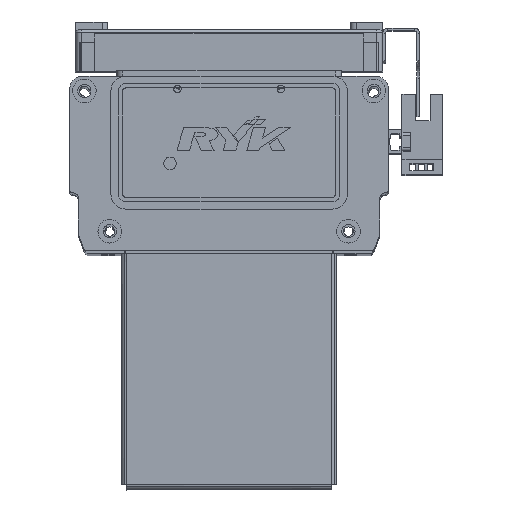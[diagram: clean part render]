
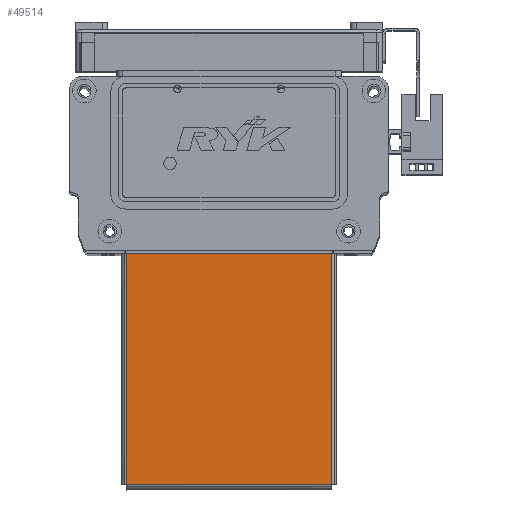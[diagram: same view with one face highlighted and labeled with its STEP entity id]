
A CAD part, top view. The second image highlights one B-rep face of the part: STEP entity #49514.
In plain terms, the highlighted planar face has unit normal (0, 0, 1) as drawn and (0, 1, 0) by its records, which use the part's own axes.
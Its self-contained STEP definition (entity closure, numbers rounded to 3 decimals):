
#2511 = EDGE_CURVE ( 'NONE', #35193, #35216, #31528, .T. ) ;
#2513 = EDGE_CURVE ( 'NONE', #35216, #35158, #31552, .T. ) ;
#2515 = EDGE_CURVE ( 'NONE', #35158, #35159, #31491, .T. ) ;
#2530 = EDGE_CURVE ( 'NONE', #35159, #35193, #31603, .T. ) ;
#5934 = ORIENTED_EDGE ( 'NONE', *, *, #2511, .T. ) ;
#5935 = ORIENTED_EDGE ( 'NONE', *, *, #2530, .T. ) ;
#5941 = ORIENTED_EDGE ( 'NONE', *, *, #2515, .T. ) ;
#5966 = ORIENTED_EDGE ( 'NONE', *, *, #2513, .T. ) ;
#6833 = EDGE_LOOP ( 'NONE', ( #5934, #5966, #5941, #5935 ) ) ;
#15084 = DIRECTION ( 'NONE',  ( 0., 1., 0. ) ) ;
#15086 = PLANE ( 'NONE',  #23822 ) ;
#15103 = CARTESIAN_POINT ( 'NONE',  ( 0., 0., 0. ) ) ;
#15109 = DIRECTION ( 'NONE',  ( 0., 0., 1. ) ) ;
#23822 = AXIS2_PLACEMENT_3D ( 'NONE', #15103, #15084, #15109 ) ;
#25919 = DIRECTION ( 'NONE',  ( 0., 0., -1. ) ) ;
#25932 = CARTESIAN_POINT ( 'NONE',  ( -34.793, 0., 38.763 ) ) ;
#25939 = CARTESIAN_POINT ( 'NONE',  ( -34.763, 0., -39.5 ) ) ;
#25950 = CARTESIAN_POINT ( 'NONE',  ( 34.763, 0., 38.793 ) ) ;
#25951 = DIRECTION ( 'NONE',  ( 1., 0., 0. ) ) ;
#25958 = DIRECTION ( 'NONE',  ( 0., 0., 1. ) ) ;
#25976 = DIRECTION ( 'NONE',  ( -1., 0., 0. ) ) ;
#26014 = CARTESIAN_POINT ( 'NONE',  ( -35.5, 0., -39.5 ) ) ;
#27691 = FACE_OUTER_BOUND ( 'NONE', #6833, .T. ) ;
#31491 = LINE ( 'NONE', #25950, #31546 ) ;
#31519 = VECTOR ( 'NONE', #25958, 1000. ) ;
#31527 = VECTOR ( 'NONE', #25951, 1000. ) ;
#31528 = LINE ( 'NONE', #25939, #31519 ) ;
#31546 = VECTOR ( 'NONE', #25919, 1000. ) ;
#31552 = LINE ( 'NONE', #25932, #31527 ) ;
#31601 = VECTOR ( 'NONE', #25976, 1000. ) ;
#31603 = LINE ( 'NONE', #26014, #31601 ) ;
#35158 = VERTEX_POINT ( 'NONE', #42542 ) ;
#35159 = VERTEX_POINT ( 'NONE', #42560 ) ;
#35193 = VERTEX_POINT ( 'NONE', #42546 ) ;
#35216 = VERTEX_POINT ( 'NONE', #42617 ) ;
#42542 = CARTESIAN_POINT ( 'NONE',  ( 34.763, 0., 38.763 ) ) ;
#42546 = CARTESIAN_POINT ( 'NONE',  ( -34.763, 0., -39.5 ) ) ;
#42560 = CARTESIAN_POINT ( 'NONE',  ( 34.763, 0., -39.5 ) ) ;
#42617 = CARTESIAN_POINT ( 'NONE',  ( -34.763, 0., 38.763 ) ) ;
#49514 = ADVANCED_FACE ( 'NONE', ( #27691 ), #15086, .T. ) ;
